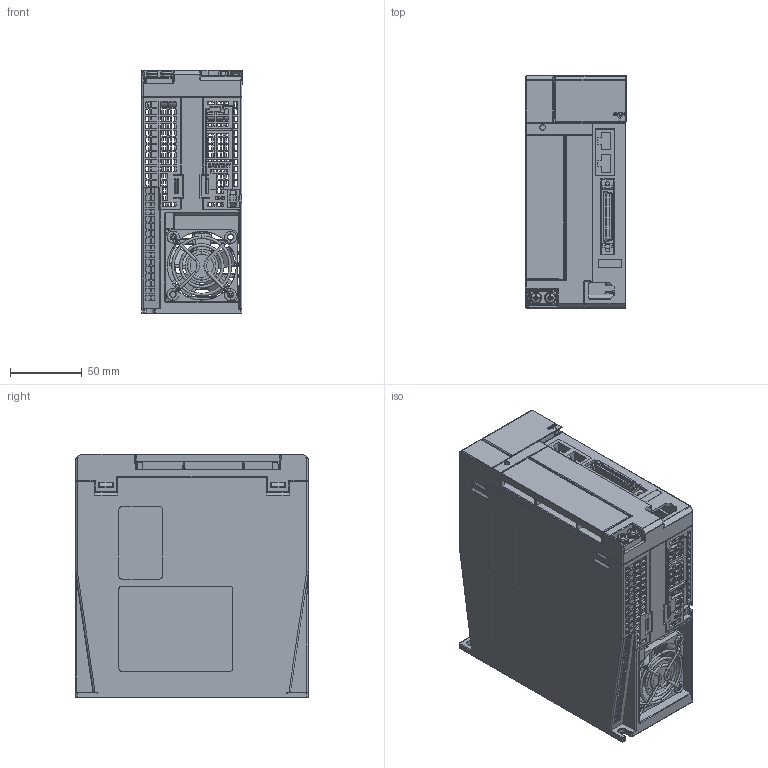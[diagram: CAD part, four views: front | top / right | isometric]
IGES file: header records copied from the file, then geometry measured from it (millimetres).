
Global section: file name: No Iges File Name specified; native system: AutoDesk Inventor R12.0; preprocessor: AutoDesk Inventor Iges Exporter R12.0; author: No Author specified; organization: No Organization specified; date: 20161012.103601; units: millimetre
Bounding box: 70.29 x 162 x 170 mm (x, y, z)
Volume: 402929.2 mm3; surface area: 331113.2 mm2
Topology: 16 solids, 17 shells, 6398 faces, 17844 edges, 11556 vertices
Faces by surface type: plane 4579, revolution 766, cylinder 662, torus 136, bspline 125, sphere 91, cone 39
